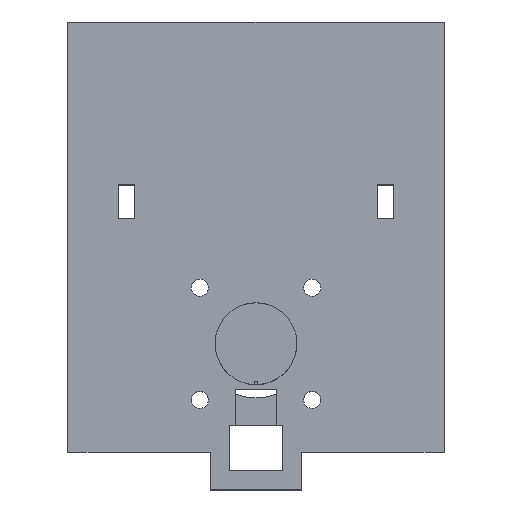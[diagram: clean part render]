
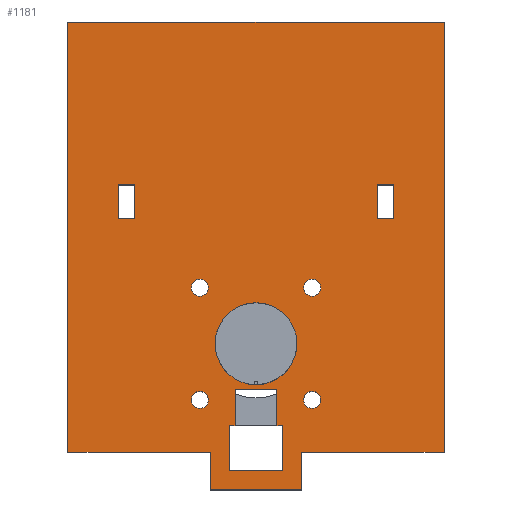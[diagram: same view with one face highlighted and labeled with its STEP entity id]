
A CAD part, top view. The second image highlights one B-rep face of the part: STEP entity #1181.
In plain terms, the highlighted planar face has unit normal (0, 0, 1).
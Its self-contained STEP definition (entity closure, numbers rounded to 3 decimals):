
#16=FACE_BOUND('',#167,.T.);
#17=FACE_BOUND('',#168,.T.);
#18=FACE_BOUND('',#169,.T.);
#19=FACE_BOUND('',#170,.T.);
#20=FACE_BOUND('',#171,.T.);
#21=FACE_BOUND('',#172,.T.);
#22=FACE_BOUND('',#173,.T.);
#23=FACE_BOUND('',#174,.T.);
#59=PLANE('',#1270);
#106=FACE_OUTER_BOUND('',#166,.T.);
#166=EDGE_LOOP('',(#892,#893,#894,#895,#896,#897,#898,#899));
#167=EDGE_LOOP('',(#900,#901,#902,#903,#904,#905,#906,#907));
#168=EDGE_LOOP('',(#908));
#169=EDGE_LOOP('',(#909,#910,#911,#912));
#170=EDGE_LOOP('',(#913,#914,#915,#916));
#171=EDGE_LOOP('',(#917));
#172=EDGE_LOOP('',(#918));
#173=EDGE_LOOP('',(#919));
#174=EDGE_LOOP('',(#920));
#235=LINE('',#1699,#358);
#239=LINE('',#1707,#362);
#242=LINE('',#1713,#365);
#245=LINE('',#1718,#368);
#247=LINE('',#1723,#370);
#251=LINE('',#1731,#374);
#254=LINE('',#1737,#377);
#257=LINE('',#1742,#380);
#265=LINE('',#1805,#388);
#271=LINE('',#1816,#394);
#277=LINE('',#1831,#400);
#278=LINE('',#1839,#401);
#279=LINE('',#1841,#402);
#280=LINE('',#1843,#403);
#281=LINE('',#1845,#404);
#282=LINE('',#1847,#405);
#283=LINE('',#1849,#406);
#284=LINE('',#1851,#407);
#285=LINE('',#1852,#408);
#286=LINE('',#1854,#409);
#287=LINE('',#1856,#410);
#288=LINE('',#1858,#411);
#289=LINE('',#1860,#412);
#290=LINE('',#1861,#413);
#358=VECTOR('',#1370,10.);
#362=VECTOR('',#1376,10.);
#365=VECTOR('',#1381,10.);
#368=VECTOR('',#1386,10.);
#370=VECTOR('',#1390,10.);
#374=VECTOR('',#1396,10.);
#377=VECTOR('',#1401,10.);
#380=VECTOR('',#1406,10.);
#388=VECTOR('',#1430,10.);
#394=VECTOR('',#1438,10.);
#400=VECTOR('',#1452,10.);
#401=VECTOR('',#1461,1.);
#402=VECTOR('',#1462,1.);
#403=VECTOR('',#1463,1.);
#404=VECTOR('',#1464,1.);
#405=VECTOR('',#1465,1.);
#406=VECTOR('',#1466,10.);
#407=VECTOR('',#1467,10.);
#408=VECTOR('',#1468,10.);
#409=VECTOR('',#1469,10.);
#410=VECTOR('',#1470,10.);
#411=VECTOR('',#1471,10.);
#412=VECTOR('',#1472,10.);
#413=VECTOR('',#1473,10.);
#478=CIRCLE('',#1236,2.05);
#480=CIRCLE('',#1239,2.05);
#482=CIRCLE('',#1242,2.05);
#484=CIRCLE('',#1245,2.05);
#487=CIRCLE('',#1258,9.8);
#523=VERTEX_POINT('',#1675);
#525=VERTEX_POINT('',#1681);
#527=VERTEX_POINT('',#1687);
#529=VERTEX_POINT('',#1693);
#530=VERTEX_POINT('',#1697);
#531=VERTEX_POINT('',#1698);
#534=VERTEX_POINT('',#1706);
#536=VERTEX_POINT('',#1712);
#538=VERTEX_POINT('',#1721);
#539=VERTEX_POINT('',#1722);
#542=VERTEX_POINT('',#1730);
#544=VERTEX_POINT('',#1736);
#552=VERTEX_POINT('',#1767);
#555=VERTEX_POINT('',#1802);
#556=VERTEX_POINT('',#1804);
#560=VERTEX_POINT('',#1814);
#565=VERTEX_POINT('',#1829);
#567=VERTEX_POINT('',#1837);
#568=VERTEX_POINT('',#1838);
#569=VERTEX_POINT('',#1840);
#570=VERTEX_POINT('',#1842);
#571=VERTEX_POINT('',#1844);
#572=VERTEX_POINT('',#1846);
#573=VERTEX_POINT('',#1848);
#574=VERTEX_POINT('',#1850);
#575=VERTEX_POINT('',#1853);
#576=VERTEX_POINT('',#1855);
#577=VERTEX_POINT('',#1857);
#578=VERTEX_POINT('',#1859);
#636=EDGE_CURVE('',#523,#523,#478,.T.);
#639=EDGE_CURVE('',#525,#525,#480,.T.);
#642=EDGE_CURVE('',#527,#527,#482,.T.);
#645=EDGE_CURVE('',#529,#529,#484,.T.);
#646=EDGE_CURVE('',#530,#531,#235,.T.);
#650=EDGE_CURVE('',#531,#534,#239,.T.);
#653=EDGE_CURVE('',#534,#536,#242,.T.);
#656=EDGE_CURVE('',#536,#530,#245,.T.);
#658=EDGE_CURVE('',#538,#539,#247,.T.);
#662=EDGE_CURVE('',#539,#542,#251,.T.);
#665=EDGE_CURVE('',#542,#544,#254,.T.);
#668=EDGE_CURVE('',#544,#538,#257,.T.);
#677=EDGE_CURVE('',#552,#552,#487,.T.);
#682=EDGE_CURVE('',#556,#555,#265,.T.);
#688=EDGE_CURVE('',#555,#560,#271,.T.);
#696=EDGE_CURVE('',#560,#565,#277,.T.);
#699=EDGE_CURVE('',#567,#568,#278,.T.);
#700=EDGE_CURVE('',#568,#569,#279,.T.);
#701=EDGE_CURVE('',#570,#569,#280,.T.);
#702=EDGE_CURVE('',#571,#570,#281,.T.);
#703=EDGE_CURVE('',#571,#572,#282,.T.);
#704=EDGE_CURVE('',#572,#573,#283,.T.);
#705=EDGE_CURVE('',#573,#574,#284,.T.);
#706=EDGE_CURVE('',#574,#567,#285,.T.);
#707=EDGE_CURVE('',#565,#575,#286,.T.);
#708=EDGE_CURVE('',#575,#576,#287,.T.);
#709=EDGE_CURVE('',#576,#577,#288,.T.);
#710=EDGE_CURVE('',#577,#578,#289,.T.);
#711=EDGE_CURVE('',#578,#556,#290,.T.);
#892=ORIENTED_EDGE('',*,*,#699,.T.);
#893=ORIENTED_EDGE('',*,*,#700,.T.);
#894=ORIENTED_EDGE('',*,*,#701,.F.);
#895=ORIENTED_EDGE('',*,*,#702,.F.);
#896=ORIENTED_EDGE('',*,*,#703,.T.);
#897=ORIENTED_EDGE('',*,*,#704,.T.);
#898=ORIENTED_EDGE('',*,*,#705,.T.);
#899=ORIENTED_EDGE('',*,*,#706,.T.);
#900=ORIENTED_EDGE('',*,*,#682,.T.);
#901=ORIENTED_EDGE('',*,*,#688,.T.);
#902=ORIENTED_EDGE('',*,*,#696,.T.);
#903=ORIENTED_EDGE('',*,*,#707,.T.);
#904=ORIENTED_EDGE('',*,*,#708,.T.);
#905=ORIENTED_EDGE('',*,*,#709,.T.);
#906=ORIENTED_EDGE('',*,*,#710,.T.);
#907=ORIENTED_EDGE('',*,*,#711,.T.);
#908=ORIENTED_EDGE('',*,*,#677,.T.);
#909=ORIENTED_EDGE('',*,*,#665,.T.);
#910=ORIENTED_EDGE('',*,*,#668,.T.);
#911=ORIENTED_EDGE('',*,*,#658,.T.);
#912=ORIENTED_EDGE('',*,*,#662,.T.);
#913=ORIENTED_EDGE('',*,*,#653,.T.);
#914=ORIENTED_EDGE('',*,*,#656,.T.);
#915=ORIENTED_EDGE('',*,*,#646,.T.);
#916=ORIENTED_EDGE('',*,*,#650,.T.);
#917=ORIENTED_EDGE('',*,*,#645,.T.);
#918=ORIENTED_EDGE('',*,*,#642,.T.);
#919=ORIENTED_EDGE('',*,*,#639,.T.);
#920=ORIENTED_EDGE('',*,*,#636,.T.);
#1181=ADVANCED_FACE('',(#106,#16,#17,#18,#19,#20,#21,#22,#23),#59,.T.);
#1236=AXIS2_PLACEMENT_3D('',#1677,#1345,#1346);
#1239=AXIS2_PLACEMENT_3D('',#1683,#1352,#1353);
#1242=AXIS2_PLACEMENT_3D('',#1689,#1359,#1360);
#1245=AXIS2_PLACEMENT_3D('',#1695,#1366,#1367);
#1258=AXIS2_PLACEMENT_3D('',#1769,#1420,#1421);
#1270=AXIS2_PLACEMENT_3D('',#1836,#1459,#1460);
#1345=DIRECTION('center_axis',(0.,0.,-1.));
#1346=DIRECTION('ref_axis',(1.,0.,0.));
#1352=DIRECTION('center_axis',(0.,0.,-1.));
#1353=DIRECTION('ref_axis',(1.,0.,0.));
#1359=DIRECTION('center_axis',(0.,0.,-1.));
#1360=DIRECTION('ref_axis',(1.,0.,0.));
#1366=DIRECTION('center_axis',(0.,0.,-1.));
#1367=DIRECTION('ref_axis',(1.,0.,0.));
#1370=DIRECTION('',(1.,0.,0.));
#1376=DIRECTION('',(0.,-1.,0.));
#1381=DIRECTION('',(-1.,0.,0.));
#1386=DIRECTION('',(0.,1.,0.));
#1390=DIRECTION('',(1.,0.,0.));
#1396=DIRECTION('',(0.,-1.,0.));
#1401=DIRECTION('',(-1.,0.,0.));
#1406=DIRECTION('',(0.,1.,0.));
#1420=DIRECTION('center_axis',(0.,0.,-1.));
#1421=DIRECTION('ref_axis',(1.,0.,0.));
#1430=DIRECTION('',(0.,1.,0.));
#1438=DIRECTION('',(1.,0.,0.));
#1452=DIRECTION('',(0.,-1.,0.));
#1459=DIRECTION('center_axis',(0.,0.,1.));
#1460=DIRECTION('ref_axis',(1.,0.,0.));
#1461=DIRECTION('',(1.,0.,0.));
#1462=DIRECTION('',(0.,1.,0.));
#1463=DIRECTION('',(1.,0.,0.));
#1464=DIRECTION('',(0.,1.,0.));
#1465=DIRECTION('',(1.,0.,0.));
#1466=DIRECTION('',(0.,-1.,0.));
#1467=DIRECTION('',(1.,0.,0.));
#1468=DIRECTION('',(0.,1.,0.));
#1469=DIRECTION('',(1.,0.,0.));
#1470=DIRECTION('',(0.,-1.,0.));
#1471=DIRECTION('',(-1.,0.,0.));
#1472=DIRECTION('',(0.,1.,0.));
#1473=DIRECTION('',(1.,0.,0.));
#1675=CARTESIAN_POINT('',(101.385,51.565,200.));
#1677=CARTESIAN_POINT('Origin',(103.435,51.565,200.));
#1681=CARTESIAN_POINT('',(74.515,51.565,200.));
#1683=CARTESIAN_POINT('Origin',(76.565,51.565,200.));
#1687=CARTESIAN_POINT('',(74.515,78.435,200.));
#1689=CARTESIAN_POINT('Origin',(76.565,78.435,200.));
#1693=CARTESIAN_POINT('',(101.385,78.435,200.));
#1695=CARTESIAN_POINT('Origin',(103.435,78.435,200.));
#1697=CARTESIAN_POINT('',(119.,103.,200.));
#1698=CARTESIAN_POINT('',(123.,103.,200.));
#1699=CARTESIAN_POINT('',(83.,103.,200.));
#1706=CARTESIAN_POINT('',(123.,95.,200.));
#1707=CARTESIAN_POINT('',(123.,69.,200.));
#1712=CARTESIAN_POINT('',(119.,95.,200.));
#1713=CARTESIAN_POINT('',(83.,95.,200.));
#1718=CARTESIAN_POINT('',(119.,69.,200.));
#1721=CARTESIAN_POINT('',(57.,103.,200.));
#1722=CARTESIAN_POINT('',(61.,103.,200.));
#1723=CARTESIAN_POINT('',(52.,103.,200.));
#1730=CARTESIAN_POINT('',(61.,95.,200.));
#1731=CARTESIAN_POINT('',(61.,69.,200.));
#1736=CARTESIAN_POINT('',(57.,95.,200.));
#1737=CARTESIAN_POINT('',(52.,95.,200.));
#1742=CARTESIAN_POINT('',(57.,69.,200.));
#1767=CARTESIAN_POINT('',(80.2,65.,200.));
#1769=CARTESIAN_POINT('Origin',(90.,65.,200.));
#1802=CARTESIAN_POINT('',(85.,54.,200.));
#1804=CARTESIAN_POINT('',(85.,45.4,200.));
#1805=CARTESIAN_POINT('',(85.,44.35,200.));
#1814=CARTESIAN_POINT('',(95.,54.,200.));
#1816=CARTESIAN_POINT('',(67.5,54.,200.));
#1829=CARTESIAN_POINT('',(95.,45.4,200.));
#1831=CARTESIAN_POINT('',(95.,44.35,200.));
#1836=CARTESIAN_POINT('Origin',(45.,39.,200.));
#1837=CARTESIAN_POINT('',(101.,39.,200.));
#1838=CARTESIAN_POINT('',(135.,39.,200.));
#1839=CARTESIAN_POINT('',(45.,39.,200.));
#1840=CARTESIAN_POINT('',(135.,142.,200.));
#1841=CARTESIAN_POINT('',(135.,39.,200.));
#1842=CARTESIAN_POINT('',(45.,142.,200.));
#1843=CARTESIAN_POINT('',(45.,142.,200.));
#1844=CARTESIAN_POINT('',(45.,39.,200.));
#1845=CARTESIAN_POINT('',(45.,39.,200.));
#1846=CARTESIAN_POINT('',(79.,39.,200.));
#1847=CARTESIAN_POINT('',(45.,39.,200.));
#1848=CARTESIAN_POINT('',(79.,30.,200.));
#1849=CARTESIAN_POINT('',(79.,40.,200.));
#1850=CARTESIAN_POINT('',(101.,30.,200.));
#1851=CARTESIAN_POINT('',(90.,30.,200.));
#1852=CARTESIAN_POINT('',(101.,40.,200.));
#1853=CARTESIAN_POINT('',(96.4,45.4,200.));
#1854=CARTESIAN_POINT('',(67.5,45.4,200.));
#1855=CARTESIAN_POINT('',(96.4,34.6,200.));
#1856=CARTESIAN_POINT('',(96.4,39.5,200.));
#1857=CARTESIAN_POINT('',(83.6,34.6,200.));
#1858=CARTESIAN_POINT('',(67.5,34.6,200.));
#1859=CARTESIAN_POINT('',(83.6,45.4,200.));
#1860=CARTESIAN_POINT('',(83.6,39.5,200.));
#1861=CARTESIAN_POINT('',(67.5,45.4,200.));
